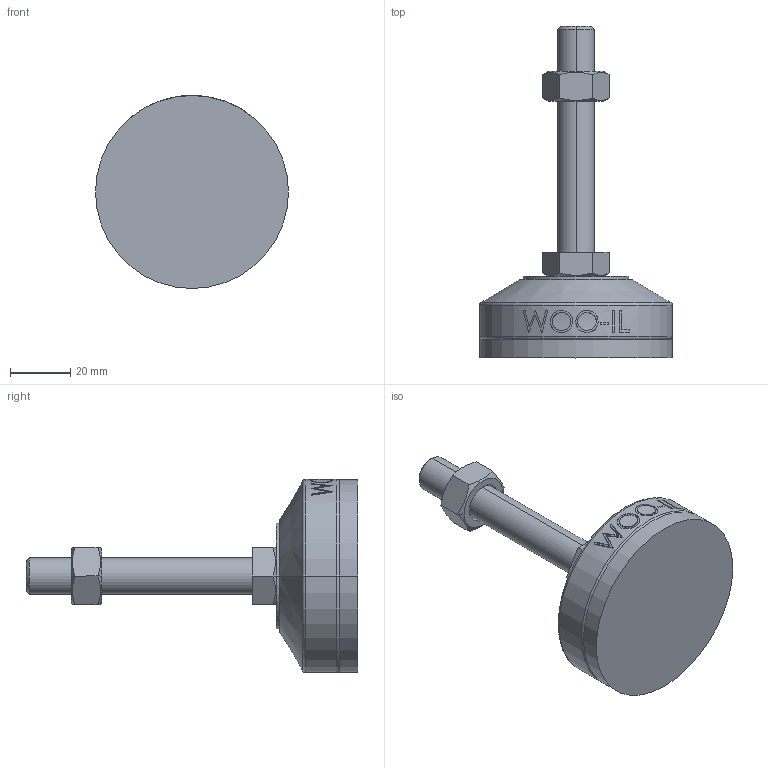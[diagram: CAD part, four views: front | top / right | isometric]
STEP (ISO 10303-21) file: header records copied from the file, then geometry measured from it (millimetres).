
FILE_DESCRIPTION (( 'STEP AP214' ), '1' );
FILE_NAME ('MFZR64-M12-75.step', '2021-03-29T06:55:35', ( '' ), ( '' ), 'SwSTEP 2.0', 'SolidWorks 2019', '' );
FILE_SCHEMA (( 'AUTOMOTIVE_DESIGN' ));
Length unit declared in the file: millimetre
Products named in the file (2): MFZR64-M12-75
Bounding box: 64 x 110 x 64 mm (x, y, z)
Volume: 88096 mm3; surface area: 22149.3 mm2
Topology: 4 solids, 4 shells, 103 faces, 235 edges, 150 vertices
Faces by surface type: plane 49, cylinder 18, bspline 16, cone 14, torus 6
Entity records: 4435 total; most frequent: CARTESIAN_POINT 2162, ORIENTED_EDGE 470, DIRECTION 417, EDGE_CURVE 235, AXIS2_PLACEMENT_3D 159, VERTEX_POINT 150, EDGE_LOOP 115, ADVANCED_FACE 103
